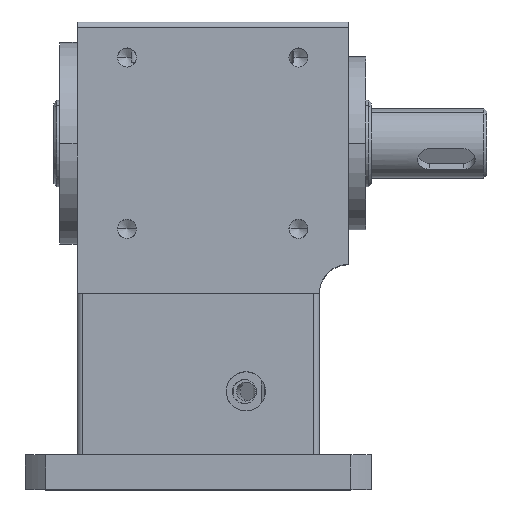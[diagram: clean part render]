
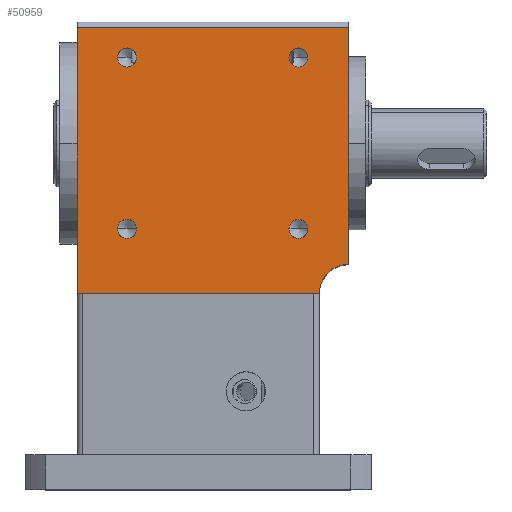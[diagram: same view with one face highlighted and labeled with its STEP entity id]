
A CAD part, top view. The second image highlights one B-rep face of the part: STEP entity #50959.
In plain terms, the highlighted planar face has unit normal (0, 0, 1).
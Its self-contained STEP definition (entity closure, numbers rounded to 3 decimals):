
#38 = CARTESIAN_POINT ( 'NONE',  ( 13.301, -12.349, 21. ) ) ;
#144 = CARTESIAN_POINT ( 'NONE',  ( 41.349, 17.349, 21. ) ) ;
#357 = FACE_BOUND ( 'NONE', #35167, .T. ) ;
#1852 = CARTESIAN_POINT ( 'NONE',  ( 45., -23.5, 21. ) ) ;
#4784 = DIRECTION ( 'NONE',  ( 1., 0., 0. ) ) ;
#4901 = LINE ( 'NONE', #57593, #38056 ) ;
#5632 = CARTESIAN_POINT ( 'NONE',  ( 10.001, 17.349, 21. ) ) ;
#6405 = AXIS2_PLACEMENT_3D ( 'NONE', #17287, #17154, #17079 ) ;
#6590 = VERTEX_POINT ( 'NONE', #1852 ) ;
#7509 = AXIS2_PLACEMENT_3D ( 'NONE', #31069, #31645, #15492 ) ;
#8206 = VECTOR ( 'NONE', #16457, 1000. ) ;
#8329 = ORIENTED_EDGE ( 'NONE', *, *, #47734, .F. ) ;
#8594 = EDGE_CURVE ( 'NONE', #15465, #21443, #23299, .T. ) ;
#9329 = VERTEX_POINT ( 'NONE', #5632 ) ;
#9740 = VERTEX_POINT ( 'NONE', #54952 ) ;
#10278 = PLANE ( 'NONE',  #10421 ) ;
#10421 = AXIS2_PLACEMENT_3D ( 'NONE', #14795, #32717, #50976 ) ;
#10502 = CIRCLE ( 'NONE', #16524, 1.65 ) ;
#11444 = ORIENTED_EDGE ( 'NONE', *, *, #11509, .F. ) ;
#11509 = EDGE_CURVE ( 'NONE', #21443, #15465, #10502, .T. ) ;
#11883 = ORIENTED_EDGE ( 'NONE', *, *, #16141, .F. ) ;
#12061 = AXIS2_PLACEMENT_3D ( 'NONE', #144, #31779, #4784 ) ;
#14406 = ORIENTED_EDGE ( 'NONE', *, *, #15472, .T. ) ;
#14648 = LINE ( 'NONE', #25337, #52162 ) ;
#14795 = CARTESIAN_POINT ( 'NONE',  ( 53., -23.5, 21. ) ) ;
#14898 = CARTESIAN_POINT ( 'NONE',  ( 42.999, -12.349, 21. ) ) ;
#15465 = VERTEX_POINT ( 'NONE', #14898 ) ;
#15472 = EDGE_CURVE ( 'NONE', #9740, #6590, #20049, .T. ) ;
#15492 = DIRECTION ( 'NONE',  ( 1., 0., 0. ) ) ;
#16141 = EDGE_CURVE ( 'NONE', #37286, #52331, #45562, .T. ) ;
#16185 = CARTESIAN_POINT ( 'NONE',  ( 50., -18.5, 21. ) ) ;
#16457 = DIRECTION ( 'NONE',  ( 1., 0., 0. ) ) ;
#16524 = AXIS2_PLACEMENT_3D ( 'NONE', #19751, #19571, #19366 ) ;
#16936 = CARTESIAN_POINT ( 'NONE',  ( 39.699, 17.349, 21. ) ) ;
#17079 = DIRECTION ( 'NONE',  ( 1., 0., 0. ) ) ;
#17154 = DIRECTION ( 'NONE',  ( 0., 0., 1. ) ) ;
#17287 = CARTESIAN_POINT ( 'NONE',  ( 41.349, 17.349, 21. ) ) ;
#18008 = EDGE_CURVE ( 'NONE', #6590, #52331, #23405, .T. ) ;
#18879 = AXIS2_PLACEMENT_3D ( 'NONE', #46654, #19474, #51203 ) ;
#19017 = CIRCLE ( 'NONE', #12061, 1.65 ) ;
#19366 = DIRECTION ( 'NONE',  ( 1., 0., 0. ) ) ;
#19474 = DIRECTION ( 'NONE',  ( 0., 0., 1. ) ) ;
#19571 = DIRECTION ( 'NONE',  ( 0., 0., 1. ) ) ;
#19751 = CARTESIAN_POINT ( 'NONE',  ( 41.349, -12.349, 21. ) ) ;
#20049 = LINE ( 'NONE', #32331, #8206 ) ;
#20166 = VERTEX_POINT ( 'NONE', #16936 ) ;
#20824 = DIRECTION ( 'NONE',  ( 1., 0., 0. ) ) ;
#21130 = VERTEX_POINT ( 'NONE', #43848 ) ;
#21443 = VERTEX_POINT ( 'NONE', #36034 ) ;
#21578 = CARTESIAN_POINT ( 'NONE',  ( 11.651, -12.349, 21. ) ) ;
#22940 = FACE_OUTER_BOUND ( 'NONE', #46567, .T. ) ;
#23299 = CIRCLE ( 'NONE', #7509, 1.65 ) ;
#23405 = CIRCLE ( 'NONE', #53935, 5. ) ;
#23630 = EDGE_CURVE ( 'NONE', #20166, #32877, #47864, .T. ) ;
#23929 = CARTESIAN_POINT ( 'NONE',  ( 50., 22.5, 21. ) ) ;
#24841 = AXIS2_PLACEMENT_3D ( 'NONE', #21578, #53300, #26092 ) ;
#25156 = VERTEX_POINT ( 'NONE', #55931 ) ;
#25230 = CARTESIAN_POINT ( 'NONE',  ( 11.651, -12.349, 21. ) ) ;
#25337 = CARTESIAN_POINT ( 'NONE',  ( 53., 22.5, 21. ) ) ;
#25833 = EDGE_CURVE ( 'NONE', #21130, #9329, #43489, .T. ) ;
#25839 = CIRCLE ( 'NONE', #18879, 1.65 ) ;
#26092 = DIRECTION ( 'NONE',  ( 1., 0., 0. ) ) ;
#26337 = CARTESIAN_POINT ( 'NONE',  ( 11.651, 17.349, 21. ) ) ;
#26753 = CIRCLE ( 'NONE', #24841, 1.65 ) ;
#27543 = CARTESIAN_POINT ( 'NONE',  ( 42.999, 17.349, 21. ) ) ;
#28120 = VERTEX_POINT ( 'NONE', #38 ) ;
#28866 = VERTEX_POINT ( 'NONE', #42511 ) ;
#29841 = DIRECTION ( 'NONE',  ( 1., 0., 0. ) ) ;
#30482 = DIRECTION ( 'NONE',  ( 0., 1., 0. ) ) ;
#30928 = DIRECTION ( 'NONE',  ( 1., 0., 0. ) ) ;
#31069 = CARTESIAN_POINT ( 'NONE',  ( 41.349, -12.349, 21. ) ) ;
#31645 = DIRECTION ( 'NONE',  ( 0., 0., 1. ) ) ;
#31779 = DIRECTION ( 'NONE',  ( 0., 0., 1. ) ) ;
#32331 = CARTESIAN_POINT ( 'NONE',  ( 53., -23.5, 21. ) ) ;
#32717 = DIRECTION ( 'NONE',  ( 0., 0., -1. ) ) ;
#32877 = VERTEX_POINT ( 'NONE', #27543 ) ;
#33029 = DIRECTION ( 'NONE',  ( 1., 0., 0. ) ) ;
#33080 = DIRECTION ( 'NONE',  ( 0., 0., -1. ) ) ;
#33141 = CARTESIAN_POINT ( 'NONE',  ( 50., -23.5, 21. ) ) ;
#33469 = VECTOR ( 'NONE', #42396, 1000. ) ;
#33576 = FACE_BOUND ( 'NONE', #53644, .T. ) ;
#34433 = ORIENTED_EDGE ( 'NONE', *, *, #52329, .F. ) ;
#35132 = ORIENTED_EDGE ( 'NONE', *, *, #25833, .F. ) ;
#35167 = EDGE_LOOP ( 'NONE', ( #47397, #34433 ) ) ;
#35630 = ORIENTED_EDGE ( 'NONE', *, *, #8594, .F. ) ;
#36034 = CARTESIAN_POINT ( 'NONE',  ( 39.699, -12.349, 21. ) ) ;
#37286 = VERTEX_POINT ( 'NONE', #23929 ) ;
#38056 = VECTOR ( 'NONE', #30482, 1000. ) ;
#39826 = CIRCLE ( 'NONE', #55522, 1.65 ) ;
#41469 = ORIENTED_EDGE ( 'NONE', *, *, #43275, .F. ) ;
#42396 = DIRECTION ( 'NONE',  ( 0., -1., 0. ) ) ;
#42511 = CARTESIAN_POINT ( 'NONE',  ( 10.001, -12.349, 21. ) ) ;
#42522 = CARTESIAN_POINT ( 'NONE',  ( 50., 0., 21. ) ) ;
#42763 = ORIENTED_EDGE ( 'NONE', *, *, #49789, .F. ) ;
#42822 = AXIS2_PLACEMENT_3D ( 'NONE', #26337, #58030, #30928 ) ;
#43275 = EDGE_CURVE ( 'NONE', #32877, #20166, #19017, .T. ) ;
#43285 = ORIENTED_EDGE ( 'NONE', *, *, #18008, .T. ) ;
#43489 = CIRCLE ( 'NONE', #42822, 1.65 ) ;
#43848 = CARTESIAN_POINT ( 'NONE',  ( 13.301, 17.349, 21. ) ) ;
#44130 = EDGE_CURVE ( 'NONE', #28120, #28866, #26753, .T. ) ;
#45562 = LINE ( 'NONE', #42522, #33469 ) ;
#46567 = EDGE_LOOP ( 'NONE', ( #42763, #8329, #14406, #43285, #11883 ) ) ;
#46654 = CARTESIAN_POINT ( 'NONE',  ( 11.651, 17.349, 21. ) ) ;
#46737 = EDGE_CURVE ( 'NONE', #9329, #21130, #25839, .T. ) ;
#47110 = FACE_BOUND ( 'NONE', #47941, .T. ) ;
#47397 = ORIENTED_EDGE ( 'NONE', *, *, #44130, .F. ) ;
#47734 = EDGE_CURVE ( 'NONE', #9740, #25156, #4901, .T. ) ;
#47864 = CIRCLE ( 'NONE', #6405, 1.65 ) ;
#47941 = EDGE_LOOP ( 'NONE', ( #35630, #11444 ) ) ;
#49789 = EDGE_CURVE ( 'NONE', #25156, #37286, #14648, .T. ) ;
#50959 = ADVANCED_FACE ( 'NONE', ( #22940, #33576, #357, #47110, #57680 ), #10278, .F. ) ;
#50976 = DIRECTION ( 'NONE',  ( -1., 0., 0. ) ) ;
#51203 = DIRECTION ( 'NONE',  ( 1., 0., 0. ) ) ;
#51514 = ORIENTED_EDGE ( 'NONE', *, *, #23630, .F. ) ;
#52162 = VECTOR ( 'NONE', #20824, 1000. ) ;
#52329 = EDGE_CURVE ( 'NONE', #28866, #28120, #39826, .T. ) ;
#52331 = VERTEX_POINT ( 'NONE', #16185 ) ;
#53300 = DIRECTION ( 'NONE',  ( 0., 0., 1. ) ) ;
#53644 = EDGE_LOOP ( 'NONE', ( #35132, #56342 ) ) ;
#53935 = AXIS2_PLACEMENT_3D ( 'NONE', #33141, #33080, #33029 ) ;
#54952 = CARTESIAN_POINT ( 'NONE',  ( 3., -23.5, 21. ) ) ;
#55522 = AXIS2_PLACEMENT_3D ( 'NONE', #25230, #56939, #29841 ) ;
#55931 = CARTESIAN_POINT ( 'NONE',  ( 3., 22.5, 21. ) ) ;
#56342 = ORIENTED_EDGE ( 'NONE', *, *, #46737, .F. ) ;
#56849 = EDGE_LOOP ( 'NONE', ( #41469, #51514 ) ) ;
#56939 = DIRECTION ( 'NONE',  ( 0., 0., 1. ) ) ;
#57593 = CARTESIAN_POINT ( 'NONE',  ( 3., 0., 21. ) ) ;
#57680 = FACE_BOUND ( 'NONE', #56849, .T. ) ;
#58030 = DIRECTION ( 'NONE',  ( 0., 0., 1. ) ) ;
